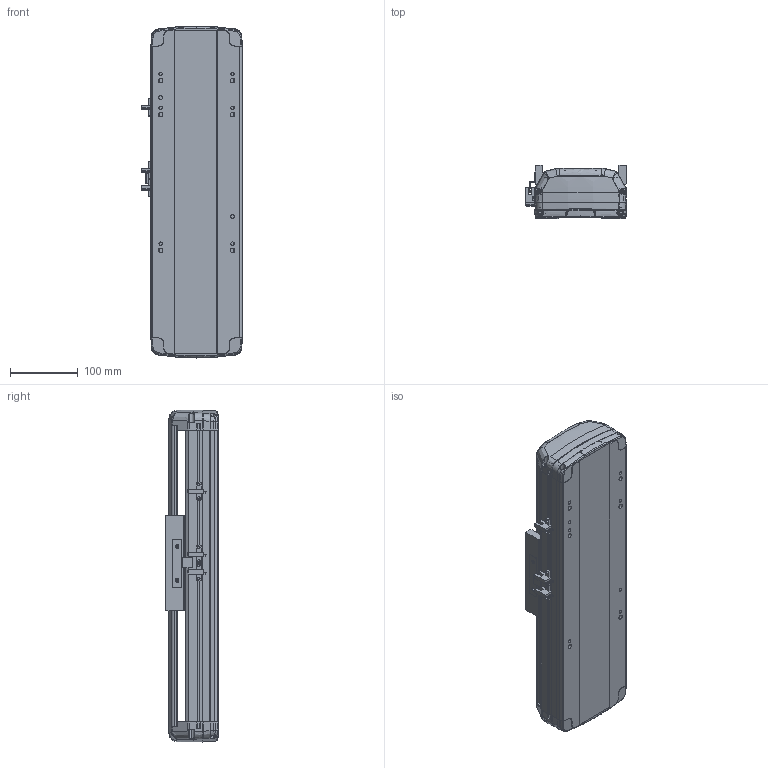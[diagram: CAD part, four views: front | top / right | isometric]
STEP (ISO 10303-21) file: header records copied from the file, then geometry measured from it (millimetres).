
FILE_DESCRIPTION (( 'STEP AP214' ), '1' );
FILE_NAME ('RTH14-XX-100-B-M20-C4.STEP', '2025-10-25T02:17:40', ( 'Microsoft' ), ( 'Microsoft' ), 'SwSTEP 2.0', 'SolidWorks 2018', '' );
FILE_SCHEMA (( 'AUTOMOTIVE_DESIGN' ));
Length unit declared in the file: millimetre
Products named in the file (7): N_RTH14-R-004-SFSR16賑釱^RTH14-XX-XX-B-M20-C4; N_RTH14-GY-001P^RTH14-XX-XX-B-M20-C4; N_RTH13-L-012感应片（外置）^RTH14-XX-XX-B-M20-C4; N_RTH14-B-011P菁釱^RTH14-XX-XX-B-M20-C4; N_OMRON EE-SX672 传感器^RTH14-XX-XX-B-M20-C4; N_RTH14-B-007奻裔^RTH14-XX-XX-B-M20-C4; RTH14-XX-100-B-M20-C4
Assembly tree (9 placements, depth 2):
  RTH14-XX-100-B-M20-C4
    N_RTH14-B-011P菁釱^RTH14-XX-XX-B-M20-C4
    N_RTH14-B-007奻裔^RTH14-XX-XX-B-M20-C4
    N_RTH13-L-012感应片（外置）^RTH14-XX-XX-B-M20-C4
    N_OMRON EE-SX672 传感器^RTH14-XX-XX-B-M20-C4  x3
    N_RTH14-R-004-SFSR16賑釱^RTH14-XX-XX-B-M20-C4
    N_RTH14-GY-001P^RTH14-XX-XX-B-M20-C4  x2
Bounding box: 148.5 x 78.03 x 488.99 mm (x, y, z)
Volume: 2214723 mm3; surface area: 530180.6 mm2
Topology: 9 solids, 9 shells, 1882 faces, 5296 edges, 3446 vertices
Faces by surface type: plane 971, bspline 450, cylinder 397, cone 56, torus 8
Entity records: 45288 total; most frequent: CARTESIAN_POINT 20538, ORIENTED_EDGE 5608, DIRECTION 4047, EDGE_CURVE 2804, VERTEX_POINT 1832, VECTOR 1595, LINE 1595, AXIS2_PLACEMENT_3D 1226
